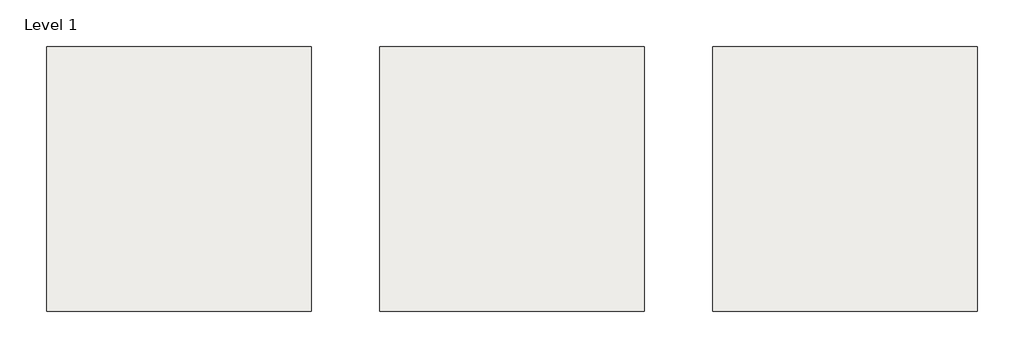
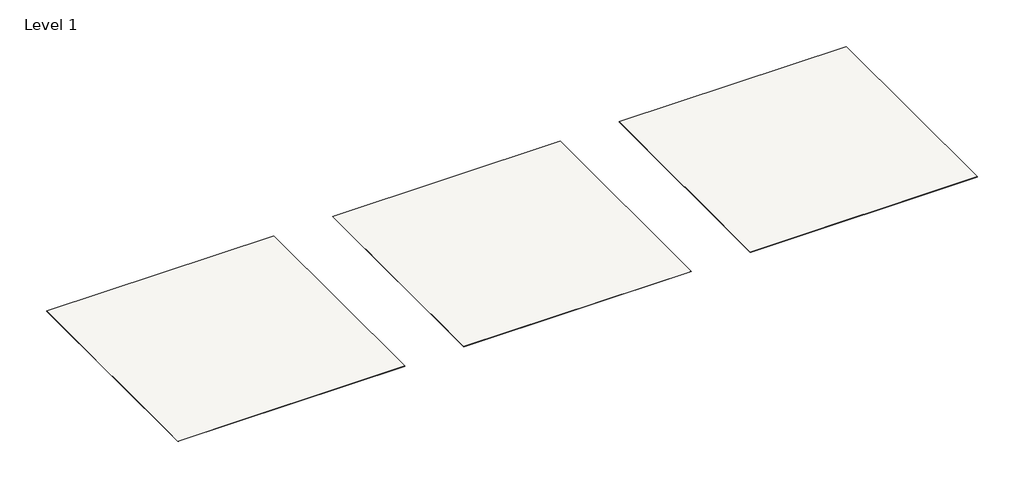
# One storey: 3 slabs.
"""IFC4 building model written with IfcOpenShell, lengths in millimetres."""

from ifc_helpers import new_model, si_unit, frame, origin, place, context, project, spatial, polyline, outline, extrude, element, save

model = new_model("IFC4")

# Units and contexts
model_context = context("Model", 3, world=origin())
ifc_project = project(units=[si_unit("LENGTHUNIT", "METRE", prefix="MILLI")], contexts=[model_context])

# Site, building, storey
site = spatial("IfcSite", under=ifc_project)
building = spatial("IfcBuilding", under=site)
storey = spatial("IfcBuildingStorey", under=building, Name="Level 1", Elevation=0.0)

# Slabs
placement = place(None, origin())
element("IfcSlab", 1, ObjectType="Thesize_Neolith_3mm+-Strata Argentum - 2600x1200 mm - River", at=placement, inside=storey, context=model_context, shape_type="SweptSolid", body=[
    extrude(outline(polyline([(18632.6076717, -65457.477561), (18632.6076717, -70457.477561), (13632.6076717, -70457.477561), (13632.6076717, -65457.477561), (18632.6076717, -65457.477561)])), frame((0.0, 0.0, -3.0), z_axis=(0.0, 0.0, 1.0), x_axis=(1.0, 0.0, 0.0)), (0.0, 0.0, 1.0), 3.0),
])
element("IfcSlab", 2, ObjectType="Thesize_Neolith_6mm+-Strata Argentum - 3600x1200 mm - River", at=placement, inside=storey, context=model_context, shape_type="SweptSolid", body=[
    extrude(outline(polyline([(24932.6076717, -65457.477561), (24932.6076717, -70457.477561), (19932.6076717, -70457.477561), (19932.6076717, -65457.477561), (24932.6076717, -65457.477561)])), frame((0.0, 0.0, -6.0), z_axis=(0.0, 0.0, 1.0), x_axis=(1.0, 0.0, 0.0)), (0.0, 0.0, 1.0), 6.0),
])
element("IfcSlab", 3, ObjectType="Thesize_Neolith_12mm-Strata Argentum - 3200x1600 mm - River", at=placement, inside=storey, context=model_context, shape_type="SweptSolid", body=[
    extrude(outline(polyline([(31232.6076717, -65457.477561), (31232.6076717, -70457.477561), (26232.6076717, -70457.477561), (26232.6076717, -65457.477561), (31232.6076717, -65457.477561)])), frame((0.0, 0.0, -12.0), z_axis=(0.0, 0.0, 1.0), x_axis=(1.0, 0.0, 0.0)), (0.0, 0.0, 1.0), 12.0),
])

save(model, "model.ifc")
